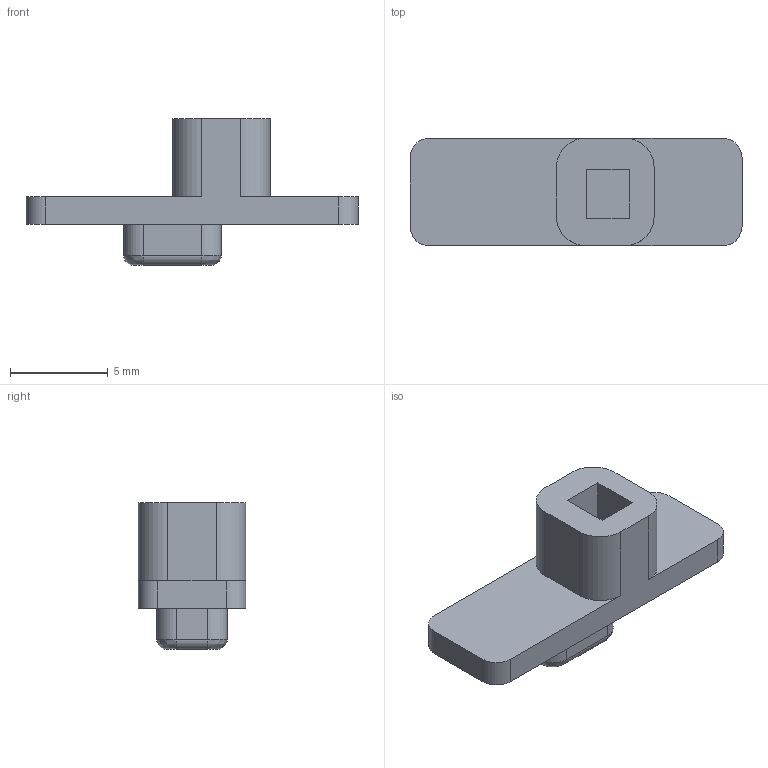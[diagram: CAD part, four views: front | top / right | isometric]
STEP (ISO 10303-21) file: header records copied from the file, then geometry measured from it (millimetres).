
FILE_DESCRIPTION((''),'2;1');
FILE_NAME('00','2025-04-08T12:12:30',('seeed'),(''),'CREO PARAMETRIC BY PTC INC, 2021404','CREO PARAMETRIC BY PTC INC, 2021404','');
FILE_SCHEMA(('AUTOMOTIVE_DESIGN { 1 0 10303 214 1 1 1 1 }'));
Length unit declared in the file: millimetre
Products named in the file (1): 00
Bounding box: 17 x 5.5 x 7.5 mm (x, y, z)
Volume: 241.3 mm3; surface area: 392.8 mm2
Topology: 1 solids, 1 shells, 40 faces, 100 edges, 64 vertices
Faces by surface type: plane 20, cylinder 16, bspline 3, torus 1
Entity records: 1886 total; most frequent: COLOUR_RGB 314, CARTESIAN_POINT 252, DIRECTION 212, ORIENTED_EDGE 200, EDGE_CURVE 100, AXIS2_PLACEMENT_3D 74, VECTOR 64, LINE 64
